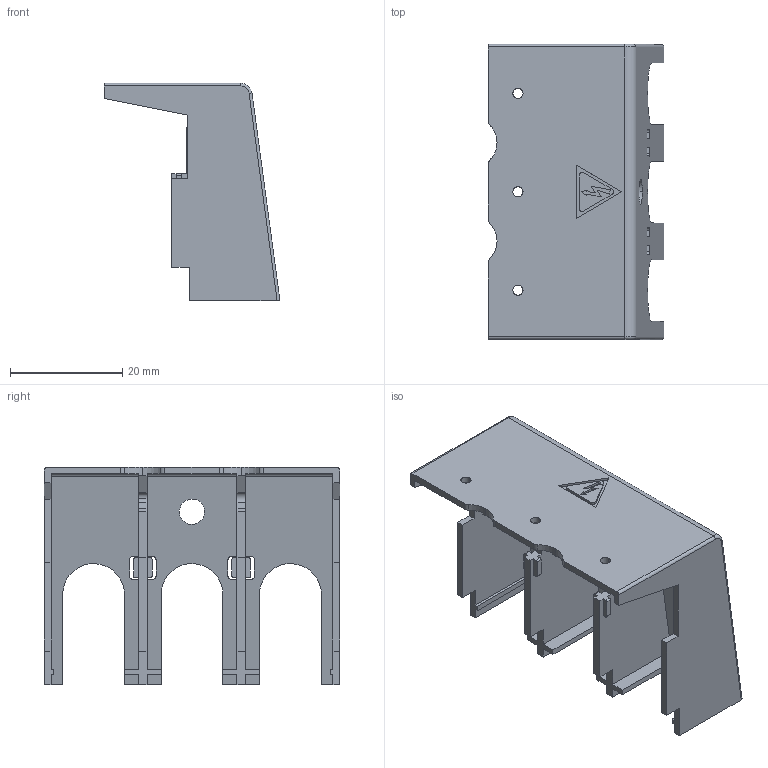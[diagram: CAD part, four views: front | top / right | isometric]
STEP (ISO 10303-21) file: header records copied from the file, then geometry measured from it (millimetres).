
FILE_DESCRIPTION (( 'STEP AP203' ), '1' );
FILE_NAME ('NF2-80TS3.STEP', '2024-03-01T06:32:01', ( 'wzjh' ), ( '' ), 'SwSTEP 2.0', 'SolidWorks 2023', '' );
FILE_SCHEMA (( 'CONFIG_CONTROL_DESIGN' ));
Length unit declared in the file: millimetre
Products named in the file (1): NF2-80TS3
Bounding box: 31.27 x 52.5 x 38.71 mm (x, y, z)
Volume: 6030.4 mm3; surface area: 10518.7 mm2
Topology: 1 solids, 1 shells, 184 faces, 545 edges, 362 vertices
Faces by surface type: plane 127, cylinder 45, bspline 10, torus 2
Entity records: 6597 total; most frequent: CARTESIAN_POINT 1711, ORIENTED_EDGE 1090, DIRECTION 884, EDGE_CURVE 545, LINE 418, VECTOR 418, VERTEX_POINT 362, AXIS2_PLACEMENT_3D 233
